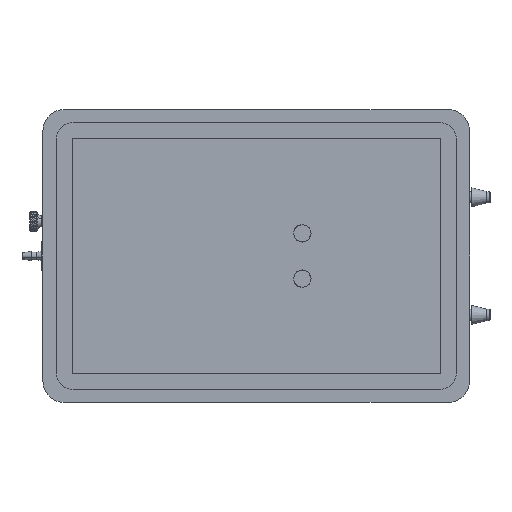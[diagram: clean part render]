
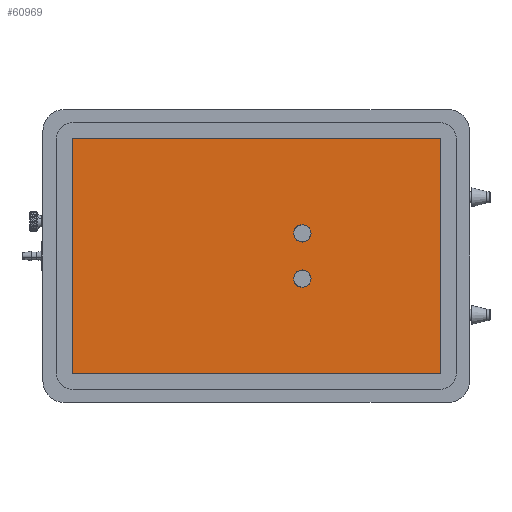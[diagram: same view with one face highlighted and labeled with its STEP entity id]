
A CAD part, front view. The second image highlights one B-rep face of the part: STEP entity #60969.
In plain terms, the highlighted planar face has unit normal (0, -1, 0).
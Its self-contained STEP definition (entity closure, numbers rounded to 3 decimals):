
#96 = CARTESIAN_POINT ( 'NONE',  ( 17.25, -4., 5.198 ) ) ;
#156 = EDGE_CURVE ( 'NONE', #13370, #27171, #48600, .T. ) ;
#340 = EDGE_CURVE ( 'NONE', #5120, #59430, #19692, .T. ) ;
#1127 = CARTESIAN_POINT ( 'NONE',  ( 68.58, -4., -43.987 ) ) ;
#2150 = VERTEX_POINT ( 'NONE', #13492 ) ;
#2658 = CARTESIAN_POINT ( 'NONE',  ( -68.58, -4., -43.637 ) ) ;
#2809 = EDGE_CURVE ( 'NONE', #61404, #25269, #59750, .T. ) ;
#4598 = VECTOR ( 'NONE', #52377, 1000. ) ;
#4997 = DIRECTION ( 'NONE',  ( 0., 0., 1. ) ) ;
#5035 = VECTOR ( 'NONE', #48023, 1000. ) ;
#5120 = VERTEX_POINT ( 'NONE', #53433 ) ;
#5843 = LINE ( 'NONE', #46320, #4598 ) ;
#6330 = AXIS2_PLACEMENT_3D ( 'NONE', #70057, #12200, #51902 ) ;
#9569 = CARTESIAN_POINT ( 'NONE',  ( 0., -4., 0. ) ) ;
#9839 = DIRECTION ( 'NONE',  ( 0., 0., -1. ) ) ;
#11948 = CARTESIAN_POINT ( 'NONE',  ( -68.93, -4., 43.637 ) ) ;
#11955 = CARTESIAN_POINT ( 'NONE',  ( -68.58, -4., 43.637 ) ) ;
#12200 = DIRECTION ( 'NONE',  ( 0., -1., 0. ) ) ;
#13370 = VERTEX_POINT ( 'NONE', #72016 ) ;
#13492 = CARTESIAN_POINT ( 'NONE',  ( -68.93, -4., -43.637 ) ) ;
#14307 = VECTOR ( 'NONE', #35015, 1000. ) ;
#16685 = ORIENTED_EDGE ( 'NONE', *, *, #58792, .F. ) ;
#17533 = DIRECTION ( 'NONE',  ( 0., -1., 0. ) ) ;
#17611 = CIRCLE ( 'NONE', #59895, 0.35 ) ;
#17721 = DIRECTION ( 'NONE',  ( 0., 0., 1. ) ) ;
#18415 = VERTEX_POINT ( 'NONE', #22099 ) ;
#19106 = DIRECTION ( 'NONE',  ( 0., -1., 0. ) ) ;
#19255 = CARTESIAN_POINT ( 'NONE',  ( 68.58, -4., 43.987 ) ) ;
#19692 = LINE ( 'NONE', #30312, #24512 ) ;
#20349 = EDGE_LOOP ( 'NONE', ( #27788, #35620 ) ) ;
#20730 = EDGE_LOOP ( 'NONE', ( #37389, #16685 ) ) ;
#20810 = VERTEX_POINT ( 'NONE', #60698 ) ;
#21086 = ORIENTED_EDGE ( 'NONE', *, *, #24203, .T. ) ;
#21286 = DIRECTION ( 'NONE',  ( 0., 1., 0. ) ) ;
#22099 = CARTESIAN_POINT ( 'NONE',  ( 17.25, -4., -11.802 ) ) ;
#22199 = AXIS2_PLACEMENT_3D ( 'NONE', #72631, #55987, #9839 ) ;
#22580 = CARTESIAN_POINT ( 'NONE',  ( 68.93, -4., 43.637 ) ) ;
#24203 = EDGE_CURVE ( 'NONE', #2150, #5120, #44626, .T. ) ;
#24252 = ORIENTED_EDGE ( 'NONE', *, *, #37024, .T. ) ;
#24326 = CARTESIAN_POINT ( 'NONE',  ( 68.58, -4., 43.637 ) ) ;
#24512 = VECTOR ( 'NONE', #59432, 1000. ) ;
#24802 = DIRECTION ( 'NONE',  ( 0., 0., -1. ) ) ;
#25269 = VERTEX_POINT ( 'NONE', #74649 ) ;
#25528 = CIRCLE ( 'NONE', #72701, 3.302 ) ;
#25764 = DIRECTION ( 'NONE',  ( 0., -1., 0. ) ) ;
#27171 = VERTEX_POINT ( 'NONE', #96 ) ;
#27638 = ORIENTED_EDGE ( 'NONE', *, *, #69463, .T. ) ;
#27716 = FACE_OUTER_BOUND ( 'NONE', #28874, .T. ) ;
#27788 = ORIENTED_EDGE ( 'NONE', *, *, #44368, .F. ) ;
#28874 = EDGE_LOOP ( 'NONE', ( #21086, #37930, #52311, #24252, #27638, #47707, #54007, #58426 ) ) ;
#28996 = CARTESIAN_POINT ( 'NONE',  ( 17.25, -4., -8.5 ) ) ;
#30071 = CIRCLE ( 'NONE', #68774, 0.35 ) ;
#30312 = CARTESIAN_POINT ( 'NONE',  ( -68.58, -4., -43.987 ) ) ;
#30438 = DIRECTION ( 'NONE',  ( 0., 0., 1. ) ) ;
#31107 = AXIS2_PLACEMENT_3D ( 'NONE', #28996, #19106, #24802 ) ;
#33034 = FACE_BOUND ( 'NONE', #20349, .T. ) ;
#35015 = DIRECTION ( 'NONE',  ( 0., 0., -1. ) ) ;
#35022 = DIRECTION ( 'NONE',  ( 0., -1., 0. ) ) ;
#35620 = ORIENTED_EDGE ( 'NONE', *, *, #156, .F. ) ;
#37024 = EDGE_CURVE ( 'NONE', #68385, #68128, #5843, .T. ) ;
#37389 = ORIENTED_EDGE ( 'NONE', *, *, #68143, .F. ) ;
#37930 = ORIENTED_EDGE ( 'NONE', *, *, #340, .T. ) ;
#43325 = CIRCLE ( 'NONE', #57797, 0.35 ) ;
#44368 = EDGE_CURVE ( 'NONE', #27171, #13370, #25528, .T. ) ;
#44606 = DIRECTION ( 'NONE',  ( 0., 0., -1. ) ) ;
#44626 = CIRCLE ( 'NONE', #56714, 0.35 ) ;
#45486 = FACE_BOUND ( 'NONE', #20730, .T. ) ;
#46320 = CARTESIAN_POINT ( 'NONE',  ( 68.93, -4., -43.637 ) ) ;
#46481 = CARTESIAN_POINT ( 'NONE',  ( 68.58, -4., -43.637 ) ) ;
#47707 = ORIENTED_EDGE ( 'NONE', *, *, #2809, .T. ) ;
#48023 = DIRECTION ( 'NONE',  ( -1., 0., 0. ) ) ;
#48600 = CIRCLE ( 'NONE', #6330, 3.302 ) ;
#48734 = AXIS2_PLACEMENT_3D ( 'NONE', #9569, #21286, #4997 ) ;
#49578 = DIRECTION ( 'NONE',  ( 0., 0., 1. ) ) ;
#50259 = DIRECTION ( 'NONE',  ( 0., -1., 0. ) ) ;
#51193 = EDGE_CURVE ( 'NONE', #25269, #54773, #17611, .T. ) ;
#51902 = DIRECTION ( 'NONE',  ( 0., 0., -1. ) ) ;
#52311 = ORIENTED_EDGE ( 'NONE', *, *, #56262, .T. ) ;
#52377 = DIRECTION ( 'NONE',  ( 0., 0., 1. ) ) ;
#52710 = DIRECTION ( 'NONE',  ( 0., 0., 1. ) ) ;
#53433 = CARTESIAN_POINT ( 'NONE',  ( -68.58, -4., -43.987 ) ) ;
#54007 = ORIENTED_EDGE ( 'NONE', *, *, #51193, .T. ) ;
#54773 = VERTEX_POINT ( 'NONE', #55574 ) ;
#55247 = EDGE_CURVE ( 'NONE', #54773, #2150, #63771, .T. ) ;
#55574 = CARTESIAN_POINT ( 'NONE',  ( -68.93, -4., 43.637 ) ) ;
#55987 = DIRECTION ( 'NONE',  ( 0., -1., 0. ) ) ;
#56262 = EDGE_CURVE ( 'NONE', #59430, #68385, #30071, .T. ) ;
#56714 = AXIS2_PLACEMENT_3D ( 'NONE', #2658, #25764, #49578 ) ;
#57797 = AXIS2_PLACEMENT_3D ( 'NONE', #24326, #17533, #52710 ) ;
#58411 = CIRCLE ( 'NONE', #22199, 3.302 ) ;
#58426 = ORIENTED_EDGE ( 'NONE', *, *, #55247, .T. ) ;
#58792 = EDGE_CURVE ( 'NONE', #20810, #18415, #58411, .T. ) ;
#59430 = VERTEX_POINT ( 'NONE', #1127 ) ;
#59432 = DIRECTION ( 'NONE',  ( 1., 0., 0. ) ) ;
#59750 = LINE ( 'NONE', #19255, #5035 ) ;
#59895 = AXIS2_PLACEMENT_3D ( 'NONE', #11955, #35022, #30438 ) ;
#60610 = CARTESIAN_POINT ( 'NONE',  ( 68.93, -4., -43.637 ) ) ;
#60698 = CARTESIAN_POINT ( 'NONE',  ( 17.25, -4., -5.198 ) ) ;
#60969 = ADVANCED_FACE ( 'NONE', ( #33034, #45486, #27716 ), #61408, .F. ) ;
#61404 = VERTEX_POINT ( 'NONE', #61847 ) ;
#61408 = PLANE ( 'NONE',  #48734 ) ;
#61847 = CARTESIAN_POINT ( 'NONE',  ( 68.58, -4., 43.987 ) ) ;
#63748 = CIRCLE ( 'NONE', #31107, 3.302 ) ;
#63771 = LINE ( 'NONE', #11948, #14307 ) ;
#67292 = CARTESIAN_POINT ( 'NONE',  ( 17.25, -4., 8.5 ) ) ;
#68128 = VERTEX_POINT ( 'NONE', #22580 ) ;
#68143 = EDGE_CURVE ( 'NONE', #18415, #20810, #63748, .T. ) ;
#68385 = VERTEX_POINT ( 'NONE', #60610 ) ;
#68774 = AXIS2_PLACEMENT_3D ( 'NONE', #46481, #74136, #17721 ) ;
#69463 = EDGE_CURVE ( 'NONE', #68128, #61404, #43325, .T. ) ;
#70057 = CARTESIAN_POINT ( 'NONE',  ( 17.25, -4., 8.5 ) ) ;
#72016 = CARTESIAN_POINT ( 'NONE',  ( 17.25, -4., 11.802 ) ) ;
#72631 = CARTESIAN_POINT ( 'NONE',  ( 17.25, -4., -8.5 ) ) ;
#72701 = AXIS2_PLACEMENT_3D ( 'NONE', #67292, #50259, #44606 ) ;
#74136 = DIRECTION ( 'NONE',  ( 0., -1., 0. ) ) ;
#74649 = CARTESIAN_POINT ( 'NONE',  ( -68.58, -4., 43.987 ) ) ;
